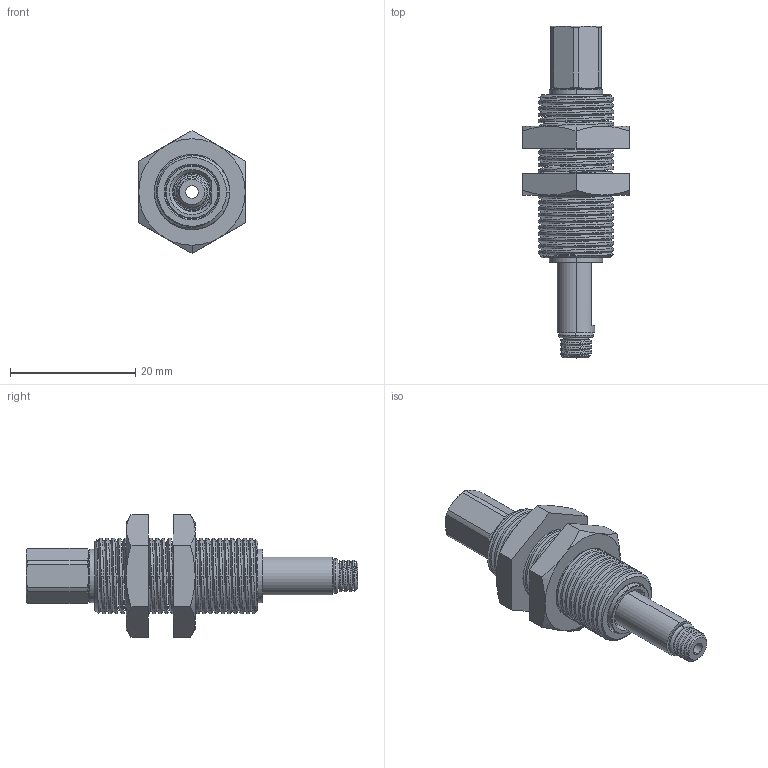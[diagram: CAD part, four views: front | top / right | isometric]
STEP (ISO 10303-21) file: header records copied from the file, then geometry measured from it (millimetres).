
FILE_DESCRIPTION (( 'STEP AP203' ), '1' );
FILE_NAME ('bln04-4bt10nk55a-m5b_asm〞〞TOC.STEP', '2024-10-17T03:05:52', ( '' ), ( '' ), 'SwSTEP 2.0', 'SolidWorks 2022', '' );
FILE_SCHEMA (( 'CONFIG_CONTROL_DESIGN' ));
Length unit declared in the file: millimetre
Products named in the file (1): bln04-4bt10nk55a-m5b_asm——TOC
Bounding box: 17 x 53 x 19.63 mm (x, y, z)
Surface area: 3858.1 mm2 (no closed solid volume)
Topology: 0 solids, 9 shells, 199 faces, 559 edges, 370 vertices
Faces by surface type: cylinder 76, cone 67, plane 33, bspline 19, torus 4
Entity records: 13470 total; most frequent: CARTESIAN_POINT 8801, ORIENTED_EDGE 993, DIRECTION 802, EDGE_CURVE 559, VERTEX_POINT 370, AXIS2_PLACEMENT_3D 325, B_SPLINE_CURVE_WITH_KNOTS 263, EDGE_LOOP 211
